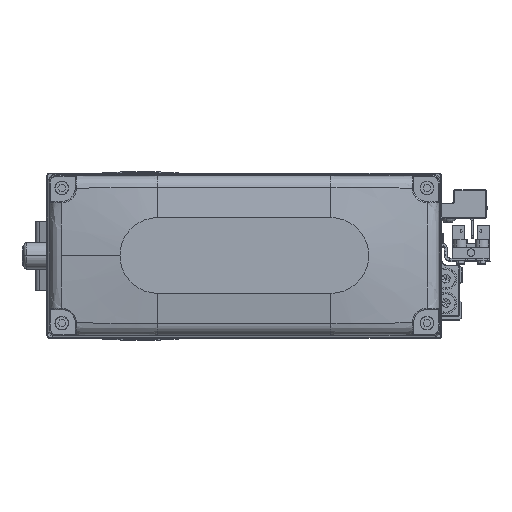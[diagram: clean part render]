
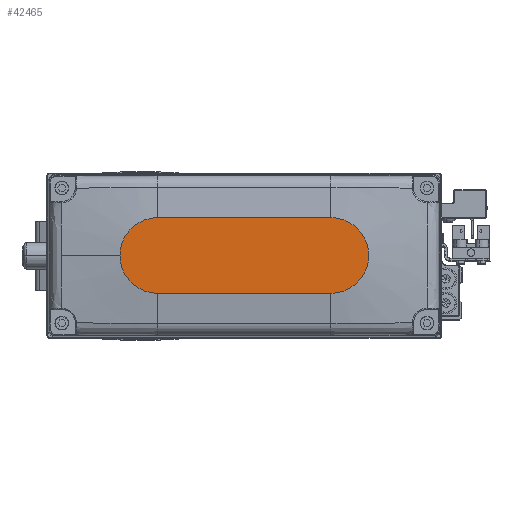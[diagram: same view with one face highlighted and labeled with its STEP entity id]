
A CAD part, top view. The second image highlights one B-rep face of the part: STEP entity #42465.
In plain terms, the highlighted planar face has unit normal (0, 0, 1).
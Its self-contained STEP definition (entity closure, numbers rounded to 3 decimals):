
#1802 = VERTEX_POINT ( 'NONE', #39702 ) ;
#2316 = VECTOR ( 'NONE', #5499, 1000. ) ;
#2479 = AXIS2_PLACEMENT_3D ( 'NONE', #20768, #34083, #4114 ) ;
#2611 = VECTOR ( 'NONE', #24425, 1000. ) ;
#4114 = DIRECTION ( 'NONE',  ( 1., 0., 0. ) ) ;
#4625 = ORIENTED_EDGE ( 'NONE', *, *, #15142, .T. ) ;
#5499 = DIRECTION ( 'NONE',  ( -1., 0., 0. ) ) ;
#7408 = PLANE ( 'NONE',  #2479 ) ;
#10300 = EDGE_CURVE ( 'NONE', #35777, #12057, #12505, .T. ) ;
#10638 = VERTEX_POINT ( 'NONE', #40431 ) ;
#11081 = CARTESIAN_POINT ( 'NONE',  ( -32., -14., 35. ) ) ;
#12057 = VERTEX_POINT ( 'NONE', #31499 ) ;
#12342 = DIRECTION ( 'NONE',  ( 1., 0., 0. ) ) ;
#12505 = CIRCLE ( 'NONE', #36932, 14. ) ;
#13301 = EDGE_CURVE ( 'NONE', #10638, #38929, #41203, .T. ) ;
#13391 = CIRCLE ( 'NONE', #37819, 14. ) ;
#14452 = CARTESIAN_POINT ( 'NONE',  ( -32., 0., 35. ) ) ;
#14624 = CARTESIAN_POINT ( 'NONE',  ( 46., 0., 35. ) ) ;
#15142 = EDGE_CURVE ( 'NONE', #38929, #1802, #13391, .T. ) ;
#15335 = CARTESIAN_POINT ( 'NONE',  ( 32., 0., 35. ) ) ;
#16384 = ORIENTED_EDGE ( 'NONE', *, *, #27655, .T. ) ;
#16464 = EDGE_LOOP ( 'NONE', ( #16384, #20617, #24485, #40243, #4625 ) ) ;
#20617 = ORIENTED_EDGE ( 'NONE', *, *, #10300, .T. ) ;
#20768 = CARTESIAN_POINT ( 'NONE',  ( 0., 0., 35. ) ) ;
#22147 = LINE ( 'NONE', #35471, #2316 ) ;
#22361 = AXIS2_PLACEMENT_3D ( 'NONE', #15335, #28667, #42001 ) ;
#24425 = DIRECTION ( 'NONE',  ( 1., 0., 0. ) ) ;
#24485 = ORIENTED_EDGE ( 'NONE', *, *, #25612, .T. ) ;
#25612 = EDGE_CURVE ( 'NONE', #12057, #10638, #41048, .T. ) ;
#27655 = EDGE_CURVE ( 'NONE', #1802, #35777, #22147, .T. ) ;
#27784 = DIRECTION ( 'NONE',  ( 0., 0., 1. ) ) ;
#28667 = DIRECTION ( 'NONE',  ( 0., 0., 1. ) ) ;
#28949 = CARTESIAN_POINT ( 'NONE',  ( 32., 0., 35. ) ) ;
#31499 = CARTESIAN_POINT ( 'NONE',  ( -32., -14., 35. ) ) ;
#34083 = DIRECTION ( 'NONE',  ( 0., 0., 1. ) ) ;
#35471 = CARTESIAN_POINT ( 'NONE',  ( -32., 14., 35. ) ) ;
#35777 = VERTEX_POINT ( 'NONE', #40222 ) ;
#36932 = AXIS2_PLACEMENT_3D ( 'NONE', #14452, #27784, #41125 ) ;
#37383 = FACE_OUTER_BOUND ( 'NONE', #16464, .T. ) ;
#37819 = AXIS2_PLACEMENT_3D ( 'NONE', #28949, #42292, #12342 ) ;
#38929 = VERTEX_POINT ( 'NONE', #14624 ) ;
#39702 = CARTESIAN_POINT ( 'NONE',  ( 32., 14., 35. ) ) ;
#40222 = CARTESIAN_POINT ( 'NONE',  ( -32., 14., 35. ) ) ;
#40243 = ORIENTED_EDGE ( 'NONE', *, *, #13301, .T. ) ;
#40431 = CARTESIAN_POINT ( 'NONE',  ( 32., -14., 35. ) ) ;
#41048 = LINE ( 'NONE', #11081, #2611 ) ;
#41125 = DIRECTION ( 'NONE',  ( 1., 0., 0. ) ) ;
#41203 = CIRCLE ( 'NONE', #22361, 14. ) ;
#42001 = DIRECTION ( 'NONE',  ( 1., 0., 0. ) ) ;
#42292 = DIRECTION ( 'NONE',  ( 0., 0., 1. ) ) ;
#42465 = ADVANCED_FACE ( 'NONE', ( #37383 ), #7408, .T. ) ;
